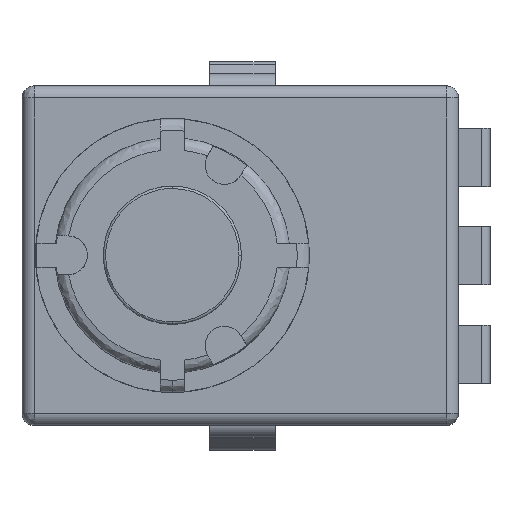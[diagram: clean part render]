
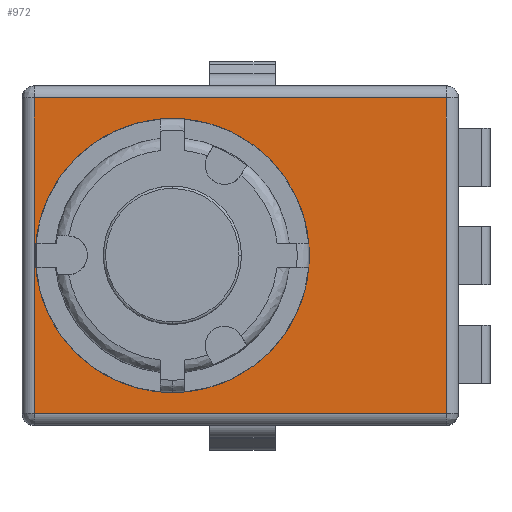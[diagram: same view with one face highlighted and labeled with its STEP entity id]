
A CAD part, top view. The second image highlights one B-rep face of the part: STEP entity #972.
In plain terms, the highlighted planar face has unit normal (0, 0, 1).
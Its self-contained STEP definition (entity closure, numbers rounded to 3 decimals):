
#882 = VERTEX_POINT ( 'NONE', #4859 ) ;
#894 = VERTEX_POINT ( 'NONE', #4903 ) ;
#914 = VERTEX_POINT ( 'NONE', #4986 ) ;
#920 = VERTEX_POINT ( 'NONE', #4975 ) ;
#931 = VERTEX_POINT ( 'NONE', #5004 ) ;
#932 = EDGE_CURVE ( 'NONE', #920, #914, #5002, .T. ) ;
#939 = EDGE_CURVE ( 'NONE', #914, #894, #5038, .T. ) ;
#944 = EDGE_CURVE ( 'NONE', #894, #882, #5030, .T. ) ;
#949 = EDGE_CURVE ( 'NONE', #882, #920, #5063, .T. ) ;
#972 = ADVANCED_FACE ( 'NONE', ( #5145, #5144 ), #5128, .F. ) ;
#973 = EDGE_LOOP ( 'NONE', ( #974, #975, #976 ) ) ;
#974 = ORIENTED_EDGE ( 'NONE', *, *, #986, .F. ) ;
#975 = ORIENTED_EDGE ( 'NONE', *, *, #999, .F. ) ;
#976 = ORIENTED_EDGE ( 'NONE', *, *, #992, .F. ) ;
#977 = EDGE_LOOP ( 'NONE', ( #978, #979, #980, #981 ) ) ;
#978 = ORIENTED_EDGE ( 'NONE', *, *, #932, .F. ) ;
#979 = ORIENTED_EDGE ( 'NONE', *, *, #949, .F. ) ;
#980 = ORIENTED_EDGE ( 'NONE', *, *, #944, .F. ) ;
#981 = ORIENTED_EDGE ( 'NONE', *, *, #939, .F. ) ;
#986 = EDGE_CURVE ( 'NONE', #1000, #931, #5177, .T. ) ;
#992 = EDGE_CURVE ( 'NONE', #931, #997, #5203, .T. ) ;
#997 = VERTEX_POINT ( 'NONE', #5231 ) ;
#999 = EDGE_CURVE ( 'NONE', #997, #1000, #5230, .T. ) ;
#1000 = VERTEX_POINT ( 'NONE', #5225 ) ;
#4859 = CARTESIAN_POINT ( 'NONE',  ( -8.5, 6.5, 6.52 ) ) ;
#4903 = CARTESIAN_POINT ( 'NONE',  ( -8.5, -6.5, 6.52 ) ) ;
#4975 = CARTESIAN_POINT ( 'NONE',  ( 8.5, 6.5, 6.52 ) ) ;
#4986 = CARTESIAN_POINT ( 'NONE',  ( 8.5, -6.5, 6.52 ) ) ;
#4999 = DIRECTION ( 'NONE',  ( 0., -1., 0. ) ) ;
#5000 = VECTOR ( 'NONE', #4999, 1000. ) ;
#5001 = CARTESIAN_POINT ( 'NONE',  ( 8.5, -6.5, 6.52 ) ) ;
#5002 = LINE ( 'NONE', #5001, #5000 ) ;
#5004 = CARTESIAN_POINT ( 'NONE',  ( -2.8, 5., 6.52 ) ) ;
#5026 = DIRECTION ( 'NONE',  ( 0., 1., 0. ) ) ;
#5027 = VECTOR ( 'NONE', #5026, 1000. ) ;
#5028 = CARTESIAN_POINT ( 'NONE',  ( -8.5, -6.5, 6.52 ) ) ;
#5030 = LINE ( 'NONE', #5028, #5027 ) ;
#5031 = DIRECTION ( 'NONE',  ( -1., 0., 0. ) ) ;
#5032 = VECTOR ( 'NONE', #5031, 1000. ) ;
#5033 = CARTESIAN_POINT ( 'NONE',  ( -8.5, -6.5, 6.52 ) ) ;
#5038 = LINE ( 'NONE', #5033, #5032 ) ;
#5055 = DIRECTION ( 'NONE',  ( 1., 0., 0. ) ) ;
#5056 = VECTOR ( 'NONE', #5055, 1000. ) ;
#5057 = CARTESIAN_POINT ( 'NONE',  ( -8.5, 6.5, 6.52 ) ) ;
#5063 = LINE ( 'NONE', #5057, #5056 ) ;
#5124 = DIRECTION ( 'NONE',  ( -1., 0., 0. ) ) ;
#5125 = DIRECTION ( 'NONE',  ( 0., 0., -1. ) ) ;
#5126 = CARTESIAN_POINT ( 'NONE',  ( -8.5, -6.5, 6.52 ) ) ;
#5127 = AXIS2_PLACEMENT_3D ( 'NONE', #5126, #5125, #5124 ) ;
#5128 = PLANE ( 'NONE',  #5127 ) ;
#5144 = FACE_OUTER_BOUND ( 'NONE', #977, .T. ) ;
#5145 = FACE_BOUND ( 'NONE', #973, .T. ) ;
#5156 = CARTESIAN_POINT ( 'NONE',  ( -2.8, 0., 6.52 ) ) ;
#5173 = DIRECTION ( 'NONE',  ( -1., 0., 0. ) ) ;
#5174 = DIRECTION ( 'NONE',  ( 0., 0., 1. ) ) ;
#5175 = CARTESIAN_POINT ( 'NONE',  ( -2.8, 0., 6.52 ) ) ;
#5176 = AXIS2_PLACEMENT_3D ( 'NONE', #5175, #5174, #5173 ) ;
#5177 = CIRCLE ( 'NONE', #5176, 5. ) ;
#5200 = DIRECTION ( 'NONE',  ( -1., 0., 0. ) ) ;
#5201 = DIRECTION ( 'NONE',  ( 0., 0., 1. ) ) ;
#5202 = AXIS2_PLACEMENT_3D ( 'NONE', #5156, #5201, #5200 ) ;
#5203 = CIRCLE ( 'NONE', #5202, 5. ) ;
#5225 = CARTESIAN_POINT ( 'NONE',  ( 2.2, 0., 6.52 ) ) ;
#5226 = DIRECTION ( 'NONE',  ( -1., 0., 0. ) ) ;
#5227 = DIRECTION ( 'NONE',  ( 0., 0., 1. ) ) ;
#5228 = CARTESIAN_POINT ( 'NONE',  ( -2.8, 0., 6.52 ) ) ;
#5229 = AXIS2_PLACEMENT_3D ( 'NONE', #5228, #5227, #5226 ) ;
#5230 = CIRCLE ( 'NONE', #5229, 5. ) ;
#5231 = CARTESIAN_POINT ( 'NONE',  ( -7.8, 0., 6.52 ) ) ;
